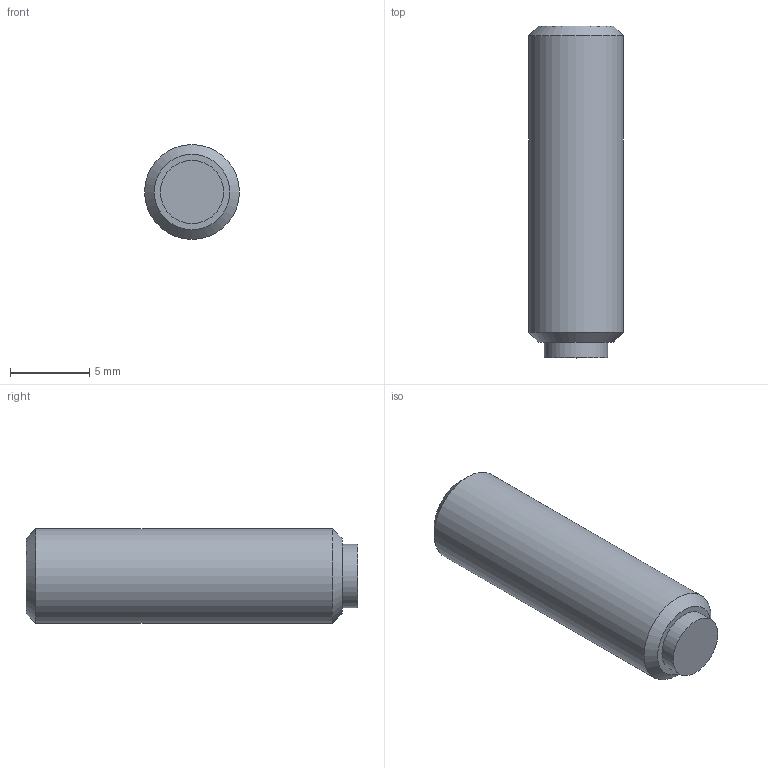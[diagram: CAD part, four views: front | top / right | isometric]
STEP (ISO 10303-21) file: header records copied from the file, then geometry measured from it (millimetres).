
FILE_DESCRIPTION( ( 'STEP AP203' ), '1' );
FILE_NAME( 'C:/Temp/Ganter_Step_05_03_2020/data/3_2/gn913_3/Grub screw GN 913.3-M6-20-MS.stp', '2020-03-13T05:35:48', ( 'License CC BY-ND 4.0' ), ( 'CADENAS' ), ' ', 'PARTsolutions', ' ' );
FILE_SCHEMA( ( 'CONFIG_CONTROL_DESIGN' ) );
Length unit declared in the file: millimetre
Products named in the file (1): _Grub screw GN 913.3-M6-20-MS
Bounding box: 6 x 21 x 6 mm (x, y, z)
Volume: 544.2 mm3; surface area: 468 mm2
Topology: 1 solids, 1 shells, 14 faces, 28 edges, 18 vertices
Faces by surface type: plane 10, cylinder 2, cone 2
Full cylindrical faces by diameter (mm): 4 x1, 6 x1
Entity records: 386 total; most frequent: DIRECTION 60, CARTESIAN_POINT 57, ORIENTED_EDGE 48, EDGE_CURVE 24, AXIS2_PLACEMENT_3D 21, EDGE_LOOP 20, VERTEX_POINT 18, LINE 18
